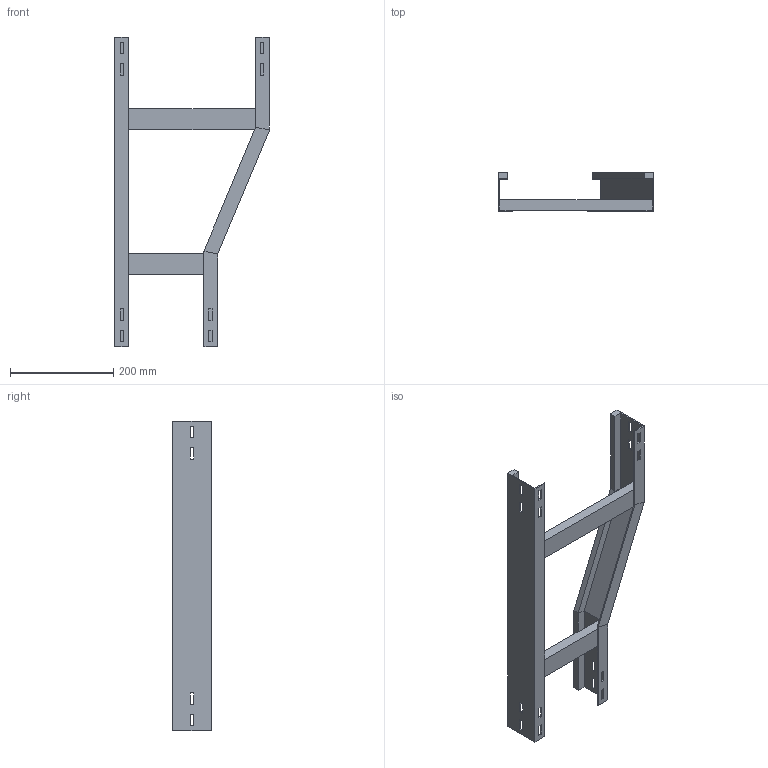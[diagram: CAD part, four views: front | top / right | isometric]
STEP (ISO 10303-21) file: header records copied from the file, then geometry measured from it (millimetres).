
FILE_DESCRIPTION (( 'STEP AP214' ), '1' );
FILE_NAME ('B2X22B2C300XX.step', '2025-09-02T17:18:33', ( '' ), ( '' ), 'SwSTEP 2.0', 'SolidWorks 2023', '' );
FILE_SCHEMA (( 'AUTOMOTIVE_DESIGN' ));
Length unit declared in the file: millimetre
Products named in the file (5): TRAVERSINO_300; B2X22B2C300XX; TRAVERSINO_200; SPONDA DRITTA_H75; SPONDA RID. SX 300-200_H75
Assembly tree (4 placements, depth 2):
  B2X22B2C300XX
    SPONDA DRITTA_H75
    TRAVERSINO_200
    TRAVERSINO_300
    SPONDA RID. SX 300-200_H75
Bounding box: 300 x 75 x 600 mm (x, y, z)
Volume: 871832 mm3; surface area: 349188 mm2
Topology: 4 solids, 4 shells, 112 faces, 296 edges, 192 vertices
Faces by surface type: plane 112
Entity records: 3590 total; most frequent: CARTESIAN_POINT 607, ORIENTED_EDGE 592, DIRECTION 534, LINE 296, EDGE_CURVE 296, VECTOR 296, VERTEX_POINT 192, EDGE_LOOP 144
